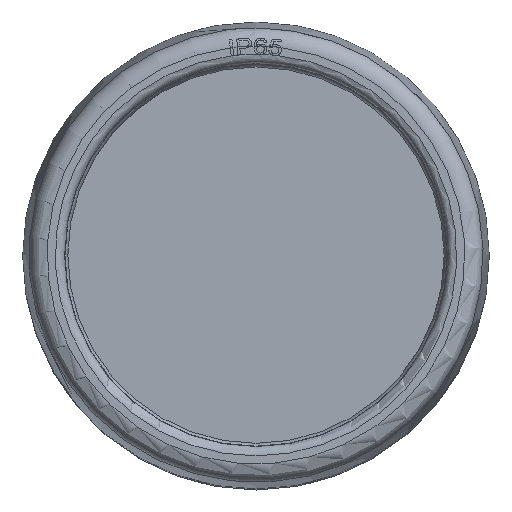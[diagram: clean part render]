
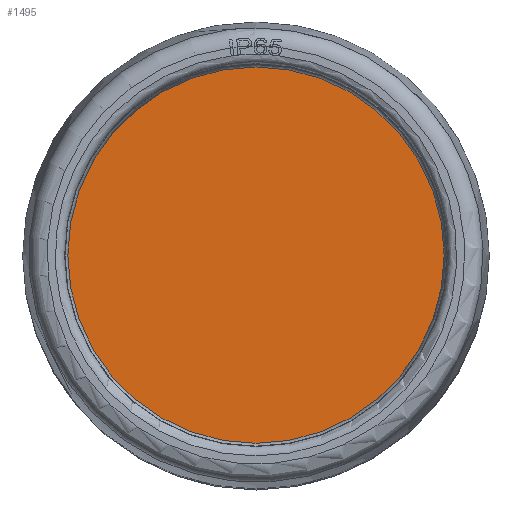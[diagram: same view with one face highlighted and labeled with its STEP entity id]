
A CAD part, top view. The second image highlights one B-rep face of the part: STEP entity #1495.
In plain terms, the highlighted planar face has unit normal (0, 0, 1).
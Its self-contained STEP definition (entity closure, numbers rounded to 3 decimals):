
#336=PLANE('',#1835);
#356=FACE_OUTER_BOUND('',#388,.T.);
#388=EDGE_LOOP('',(#440));
#440=ORIENTED_EDGE('',*,*,#740,.T.);
#740=EDGE_CURVE('',#1581,#1581,#1010,.T.);
#1010=CIRCLE('',#1834,21.05);
#1495=ADVANCED_FACE('',(#356),#336,.T.);
#1581=VERTEX_POINT('',#2135);
#1834=AXIS2_PLACEMENT_3D('',#2134,#1933,#1934);
#1835=AXIS2_PLACEMENT_3D('',#2136,#1935,#1936);
#1933=DIRECTION('',(0.,0.,1.));
#1934=DIRECTION('',(1.,0.,0.));
#1935=DIRECTION('',(0.,0.,1.));
#1936=DIRECTION('',(-1.,0.,0.));
#2134=CARTESIAN_POINT('',(0.,0.,126.3));
#2135=CARTESIAN_POINT('',(21.05,0.,126.3));
#2136=CARTESIAN_POINT('',(-22.761,-22.761,126.3));
